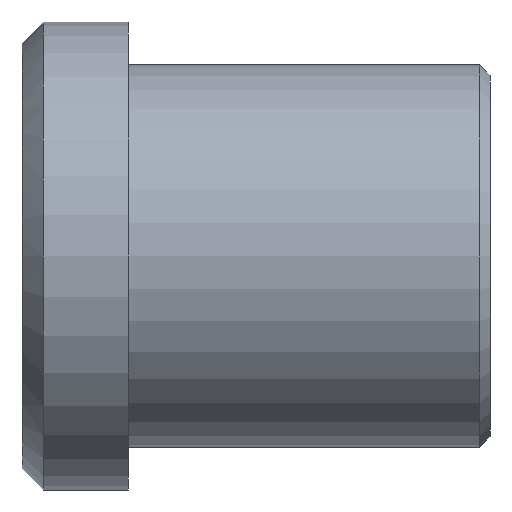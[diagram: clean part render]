
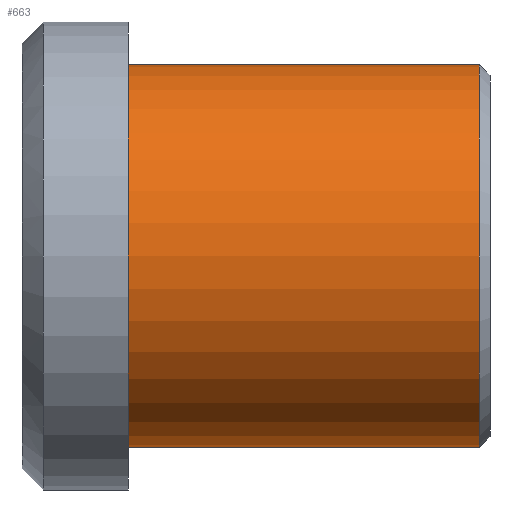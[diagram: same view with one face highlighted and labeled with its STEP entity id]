
A CAD part, front view. The second image highlights one B-rep face of the part: STEP entity #663.
In plain terms, the highlighted cylindrical face has radius 9 mm (diameter 18 mm), a partial arc.
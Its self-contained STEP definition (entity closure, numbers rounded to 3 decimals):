
#501=CARTESIAN_POINT('Vertex',(0.,0.,-9.)) ;
#506=CARTESIAN_POINT('Axis2P3D Location',(0.,0.,0.)) ;
#510=CARTESIAN_POINT('Vertex',(0.,-9.,0.)) ;
#513=CARTESIAN_POINT('Axis2P3D Location',(0.,0.,0.)) ;
#517=CARTESIAN_POINT('Vertex',(0.,0.,9.)) ;
#603=CARTESIAN_POINT('Line Origine',(17.,0.,9.)) ;
#607=CARTESIAN_POINT('Vertex',(16.5,0.,9.)) ;
#621=CARTESIAN_POINT('Vertex',(16.5,0.,-9.)) ;
#624=CARTESIAN_POINT('Line Origine',(17.,0.,-9.)) ;
#638=CARTESIAN_POINT('Axis2P3D Location',(17.,0.,0.)) ;
#643=CARTESIAN_POINT('Axis2P3D Location',(16.5,0.,0.)) ;
#647=CARTESIAN_POINT('Vertex',(16.5,-9.,0.)) ;
#650=CARTESIAN_POINT('Axis2P3D Location',(16.5,0.,0.)) ;
#507=DIRECTION('Axis2P3D Direction',(1.,0.,-0.)) ;
#514=DIRECTION('Axis2P3D Direction',(1.,0.,-0.)) ;
#604=DIRECTION('Vector Direction',(-1.,0.,0.)) ;
#625=DIRECTION('Vector Direction',(-1.,0.,0.)) ;
#639=DIRECTION('Axis2P3D Direction',(-1.,-0.,-0.)) ;
#640=DIRECTION('Axis2P3D XDirection',(0.,0.,-1.)) ;
#644=DIRECTION('Axis2P3D Direction',(-1.,-0.,-0.)) ;
#651=DIRECTION('Axis2P3D Direction',(-1.,-0.,-0.)) ;
#508=AXIS2_PLACEMENT_3D('Circle Axis2P3D',#506,#507,$) ;
#515=AXIS2_PLACEMENT_3D('Circle Axis2P3D',#513,#514,$) ;
#641=AXIS2_PLACEMENT_3D('Cylinder Axis2P3D',#638,#639,#640) ;
#645=AXIS2_PLACEMENT_3D('Circle Axis2P3D',#643,#644,$) ;
#652=AXIS2_PLACEMENT_3D('Circle Axis2P3D',#650,#651,$) ;
#656=ORIENTED_EDGE('',*,*,#628,.T.) ;
#657=ORIENTED_EDGE('',*,*,#649,.F.) ;
#658=ORIENTED_EDGE('',*,*,#654,.F.) ;
#659=ORIENTED_EDGE('',*,*,#609,.T.) ;
#660=ORIENTED_EDGE('',*,*,#519,.T.) ;
#661=ORIENTED_EDGE('',*,*,#512,.T.) ;
#605=VECTOR('Line Direction',#604,1.) ;
#626=VECTOR('Line Direction',#625,1.) ;
#663=ADVANCED_FACE('353-12X22',(#662),#642,.T.) ;
#509=CIRCLE('generated circle',#508,9.) ;
#516=CIRCLE('generated circle',#515,9.) ;
#646=CIRCLE('generated circle',#645,9.) ;
#653=CIRCLE('generated circle',#652,9.) ;
#642=CYLINDRICAL_SURFACE('generated cylinder',#641,9.) ;
#512=EDGE_CURVE('',#511,#502,#509,.T.) ;
#519=EDGE_CURVE('',#518,#511,#516,.T.) ;
#609=EDGE_CURVE('',#608,#518,#606,.T.) ;
#628=EDGE_CURVE('',#502,#622,#627,.F.) ;
#649=EDGE_CURVE('',#648,#622,#646,.F.) ;
#654=EDGE_CURVE('',#608,#648,#653,.F.) ;
#655=EDGE_LOOP('',(#656,#657,#658,#659,#660,#661)) ;
#662=FACE_OUTER_BOUND('',#655,.T.) ;
#606=LINE('Line',#603,#605) ;
#627=LINE('Line',#624,#626) ;
#502=VERTEX_POINT('',#501) ;
#511=VERTEX_POINT('',#510) ;
#518=VERTEX_POINT('',#517) ;
#608=VERTEX_POINT('',#607) ;
#622=VERTEX_POINT('',#621) ;
#648=VERTEX_POINT('',#647) ;
